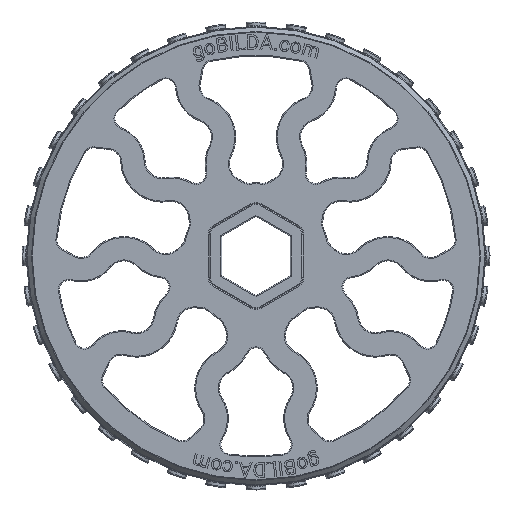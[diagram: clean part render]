
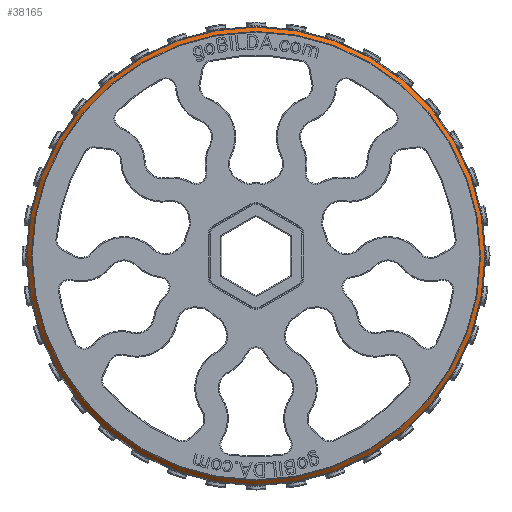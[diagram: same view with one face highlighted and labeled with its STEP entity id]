
A CAD part, front view. The second image highlights one B-rep face of the part: STEP entity #38165.
In plain terms, the highlighted conical face has half-angle 45 degrees and reference radius 23.25 mm.
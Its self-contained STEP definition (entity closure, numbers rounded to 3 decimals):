
#365=CONICAL_SURFACE('',#40699,23.25,0.785);
#1735=CIRCLE('',#40696,23.029);
#1737=CIRCLE('',#40698,23.029);
#1738=CIRCLE('',#40700,23.471);
#1739=CIRCLE('',#40701,23.471);
#4258=FACE_OUTER_BOUND('',#6789,.T.);
#6789=EDGE_LOOP('',(#29460,#29461,#29462,#29463,#29464,#29465));
#9719=LINE('',#64336,#11539);
#11539=VECTOR('',#46216,23.25);
#16279=VERTEX_POINT('',#64326);
#16280=VERTEX_POINT('',#64327);
#16281=VERTEX_POINT('',#64332);
#16282=VERTEX_POINT('',#64333);
#20924=EDGE_CURVE('',#16279,#16280,#1735,.T.);
#20926=EDGE_CURVE('',#16280,#16279,#1737,.T.);
#20927=EDGE_CURVE('',#16281,#16282,#1738,.T.);
#20928=EDGE_CURVE('',#16282,#16281,#1739,.T.);
#20929=EDGE_CURVE('',#16282,#16279,#9719,.T.);
#29460=ORIENTED_EDGE('',*,*,#20927,.F.);
#29461=ORIENTED_EDGE('',*,*,#20928,.F.);
#29462=ORIENTED_EDGE('',*,*,#20929,.T.);
#29463=ORIENTED_EDGE('',*,*,#20926,.F.);
#29464=ORIENTED_EDGE('',*,*,#20924,.F.);
#29465=ORIENTED_EDGE('',*,*,#20929,.F.);
#38165=ADVANCED_FACE('',(#4258),#365,.T.);
#40696=AXIS2_PLACEMENT_3D('',#64328,#46204,#46205);
#40698=AXIS2_PLACEMENT_3D('',#64330,#46208,#46209);
#40699=AXIS2_PLACEMENT_3D('',#64331,#46210,#46211);
#40700=AXIS2_PLACEMENT_3D('',#64334,#46212,#46213);
#40701=AXIS2_PLACEMENT_3D('',#64335,#46214,#46215);
#46204=DIRECTION('center_axis',(0.,-1.,0.));
#46205=DIRECTION('ref_axis',(0.985,0.,-0.174));
#46208=DIRECTION('center_axis',(0.,-1.,0.));
#46209=DIRECTION('ref_axis',(0.985,0.,-0.174));
#46210=DIRECTION('center_axis',(0.,1.,0.));
#46211=DIRECTION('ref_axis',(0.985,0.,-0.174));
#46212=DIRECTION('center_axis',(0.,1.,0.));
#46213=DIRECTION('ref_axis',(0.985,0.,-0.174));
#46214=DIRECTION('center_axis',(0.,1.,0.));
#46215=DIRECTION('ref_axis',(0.985,0.,-0.174));
#46216=DIRECTION('',(0.696,-0.707,-0.123));
#64326=CARTESIAN_POINT('',(-22.679,-7.971,3.999));
#64327=CARTESIAN_POINT('',(0.,-7.971,-23.029));
#64328=CARTESIAN_POINT('Origin',(0.,-7.971,0.));
#64330=CARTESIAN_POINT('Origin',(0.,-7.971,0.));
#64331=CARTESIAN_POINT('Origin',(0.,-7.75,0.));
#64332=CARTESIAN_POINT('',(0.,-7.529,23.471));
#64333=CARTESIAN_POINT('',(-23.114,-7.529,4.076));
#64334=CARTESIAN_POINT('Origin',(0.,-7.529,0.));
#64335=CARTESIAN_POINT('Origin',(0.,-7.529,0.));
#64336=CARTESIAN_POINT('',(-22.897,-7.75,4.037));
